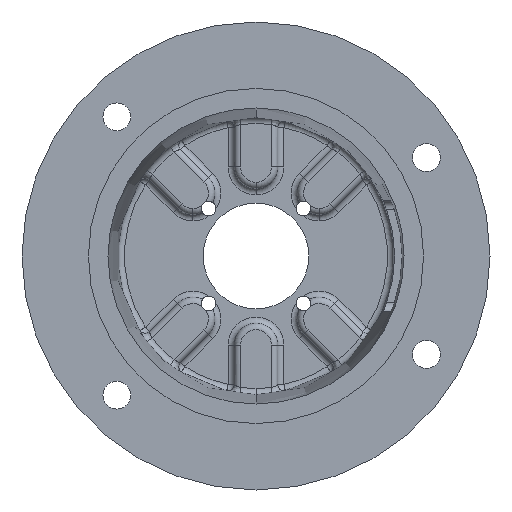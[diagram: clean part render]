
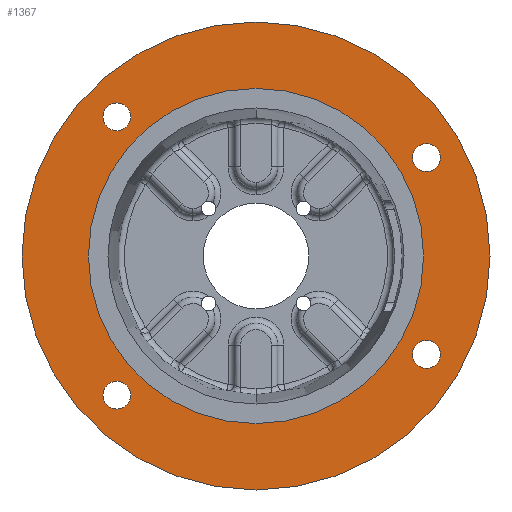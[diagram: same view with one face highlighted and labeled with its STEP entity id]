
A CAD part, front view. The second image highlights one B-rep face of the part: STEP entity #1367.
In plain terms, the highlighted planar face has unit normal (0, -1, 0).
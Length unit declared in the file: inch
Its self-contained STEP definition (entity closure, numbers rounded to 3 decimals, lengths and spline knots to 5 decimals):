
#10 = VERTEX_POINT ( 'NONE', #11463 ) ;
#105 = DIRECTION ( 'NONE',  ( 0., -1., 0. ) ) ;
#249 = CARTESIAN_POINT ( 'NONE',  ( 4.00537, 0., -2.3125 ) ) ;
#466 = CIRCLE ( 'NONE', #10518, 0.32812 ) ;
#550 = CARTESIAN_POINT ( 'NONE',  ( 4.00537, 0., -2.64063 ) ) ;
#581 = CARTESIAN_POINT ( 'NONE',  ( 4.00537, 0., -2.3125 ) ) ;
#617 = DIRECTION ( 'NONE',  ( 0., 0., -1. ) ) ;
#686 = CARTESIAN_POINT ( 'NONE',  ( -3.27037, 0., 3.27037 ) ) ;
#737 = DIRECTION ( 'NONE',  ( 0., -1., 0. ) ) ;
#801 = ORIENTED_EDGE ( 'NONE', *, *, #5956, .F. ) ;
#821 = FACE_BOUND ( 'NONE', #5572, .T. ) ;
#880 = DIRECTION ( 'NONE',  ( 0., 0., -1. ) ) ;
#986 = CIRCLE ( 'NONE', #13834, 0.32812 ) ;
#1192 = CARTESIAN_POINT ( 'NONE',  ( 0., 0., 3.9385 ) ) ;
#1319 = DIRECTION ( 'NONE',  ( 0., -1., 0. ) ) ;
#1344 = AXIS2_PLACEMENT_3D ( 'NONE', #9605, #3038, #10681 ) ;
#1367 = ADVANCED_FACE ( 'NONE', ( #6631, #3731, #821, #12426, #12077, #9223 ), #4851, .F. ) ;
#1369 = DIRECTION ( 'NONE',  ( 0., 0., -1. ) ) ;
#1380 = EDGE_CURVE ( 'NONE', #1920, #7416, #466, .T. ) ;
#1396 = DIRECTION ( 'NONE',  ( 0., -1., 0. ) ) ;
#1414 = ORIENTED_EDGE ( 'NONE', *, *, #10259, .F. ) ;
#1696 = DIRECTION ( 'NONE',  ( 0., 0., -1. ) ) ;
#1726 = EDGE_CURVE ( 'NONE', #8105, #10, #986, .T. ) ;
#1920 = VERTEX_POINT ( 'NONE', #13364 ) ;
#2067 = VERTEX_POINT ( 'NONE', #13844 ) ;
#2233 = AXIS2_PLACEMENT_3D ( 'NONE', #7871, #1319, #8975 ) ;
#2440 = AXIS2_PLACEMENT_3D ( 'NONE', #7956, #1396, #9068 ) ;
#2498 = CIRCLE ( 'NONE', #9348, 0.32812 ) ;
#2959 = AXIS2_PLACEMENT_3D ( 'NONE', #13644, #7208, #617 ) ;
#3008 = CIRCLE ( 'NONE', #13911, 0.32812 ) ;
#3038 = DIRECTION ( 'NONE',  ( 0., -1., 0. ) ) ;
#3378 = VERTEX_POINT ( 'NONE', #7032 ) ;
#3603 = CARTESIAN_POINT ( 'NONE',  ( 0., 0., 5.5 ) ) ;
#3731 = FACE_BOUND ( 'NONE', #9716, .T. ) ;
#3814 = DIRECTION ( 'NONE',  ( 0., 0., -1. ) ) ;
#3906 = DIRECTION ( 'NONE',  ( 0., -1., 0. ) ) ;
#4172 = CIRCLE ( 'NONE', #6032, 0.32812 ) ;
#4181 = CIRCLE ( 'NONE', #1344, 0.32812 ) ;
#4254 = CARTESIAN_POINT ( 'NONE',  ( -3.27037, 0., -3.27037 ) ) ;
#4286 = AXIS2_PLACEMENT_3D ( 'NONE', #581, #8265, #1696 ) ;
#4335 = CARTESIAN_POINT ( 'NONE',  ( -3.27037, 0., -3.27037 ) ) ;
#4442 = CARTESIAN_POINT ( 'NONE',  ( 4.00537, 0., 2.3125 ) ) ;
#4710 = DIRECTION ( 'NONE',  ( 0., 0., 1. ) ) ;
#4725 = EDGE_LOOP ( 'NONE', ( #12754, #11399 ) ) ;
#4769 = DIRECTION ( 'NONE',  ( 0., 1., 0. ) ) ;
#4851 = PLANE ( 'NONE',  #11260 ) ;
#4946 = EDGE_CURVE ( 'NONE', #2067, #10457, #5200, .T. ) ;
#4983 = CARTESIAN_POINT ( 'NONE',  ( -5.5, 0., 0. ) ) ;
#5200 = CIRCLE ( 'NONE', #2959, 0.32812 ) ;
#5214 = CIRCLE ( 'NONE', #7090, 3.9385 ) ;
#5255 = CIRCLE ( 'NONE', #4286, 0.32812 ) ;
#5431 = DIRECTION ( 'NONE',  ( 0., 0., -1. ) ) ;
#5534 = DIRECTION ( 'NONE',  ( 0., 0., -1. ) ) ;
#5572 = EDGE_LOOP ( 'NONE', ( #10319, #11629 ) ) ;
#5652 = CARTESIAN_POINT ( 'NONE',  ( 0., 0., 0. ) ) ;
#5896 = EDGE_LOOP ( 'NONE', ( #801, #9109 ) ) ;
#5926 = EDGE_LOOP ( 'NONE', ( #9608, #8827 ) ) ;
#5956 = EDGE_CURVE ( 'NONE', #10, #8105, #4181, .T. ) ;
#6032 = AXIS2_PLACEMENT_3D ( 'NONE', #249, #7927, #1369 ) ;
#6565 = EDGE_CURVE ( 'NONE', #6638, #3378, #10968, .T. ) ;
#6631 = FACE_BOUND ( 'NONE', #4725, .T. ) ;
#6638 = VERTEX_POINT ( 'NONE', #3603 ) ;
#6668 = CARTESIAN_POINT ( 'NONE',  ( 0., 0., 0. ) ) ;
#6771 = DIRECTION ( 'NONE',  ( 0., 0., -1. ) ) ;
#7032 = CARTESIAN_POINT ( 'NONE',  ( 0., 0., -5.5 ) ) ;
#7090 = AXIS2_PLACEMENT_3D ( 'NONE', #5652, #13244, #6771 ) ;
#7146 = EDGE_CURVE ( 'NONE', #3378, #6638, #10562, .T. ) ;
#7208 = DIRECTION ( 'NONE',  ( 0., -1., 0. ) ) ;
#7262 = VERTEX_POINT ( 'NONE', #11465 ) ;
#7416 = VERTEX_POINT ( 'NONE', #11734 ) ;
#7774 = DIRECTION ( 'NONE',  ( 0., 0., -1. ) ) ;
#7871 = CARTESIAN_POINT ( 'NONE',  ( 0., 0., 0. ) ) ;
#7927 = DIRECTION ( 'NONE',  ( 0., -1., 0. ) ) ;
#7956 = CARTESIAN_POINT ( 'NONE',  ( 0., 0., 0. ) ) ;
#8105 = VERTEX_POINT ( 'NONE', #13345 ) ;
#8265 = DIRECTION ( 'NONE',  ( 0., -1., 0. ) ) ;
#8295 = EDGE_CURVE ( 'NONE', #11480, #9294, #5255, .T. ) ;
#8503 = CARTESIAN_POINT ( 'NONE',  ( 4.00537, 0., 2.64062 ) ) ;
#8640 = ORIENTED_EDGE ( 'NONE', *, *, #6565, .T. ) ;
#8827 = ORIENTED_EDGE ( 'NONE', *, *, #9594, .F. ) ;
#8974 = EDGE_CURVE ( 'NONE', #10457, #2067, #3008, .T. ) ;
#8975 = DIRECTION ( 'NONE',  ( 0., 0., -1. ) ) ;
#9068 = DIRECTION ( 'NONE',  ( 0., 0., -1. ) ) ;
#9109 = ORIENTED_EDGE ( 'NONE', *, *, #1726, .F. ) ;
#9223 = FACE_OUTER_BOUND ( 'NONE', #13045, .T. ) ;
#9294 = VERTEX_POINT ( 'NONE', #550 ) ;
#9348 = AXIS2_PLACEMENT_3D ( 'NONE', #4335, #11942, #5431 ) ;
#9489 = EDGE_CURVE ( 'NONE', #7416, #1920, #2498, .T. ) ;
#9594 = EDGE_CURVE ( 'NONE', #12329, #7262, #13377, .T. ) ;
#9605 = CARTESIAN_POINT ( 'NONE',  ( -3.27037, 0., 3.27037 ) ) ;
#9608 = ORIENTED_EDGE ( 'NONE', *, *, #12756, .F. ) ;
#9716 = EDGE_LOOP ( 'NONE', ( #1414, #13701 ) ) ;
#10259 = EDGE_CURVE ( 'NONE', #9294, #11480, #4172, .T. ) ;
#10319 = ORIENTED_EDGE ( 'NONE', *, *, #1380, .F. ) ;
#10457 = VERTEX_POINT ( 'NONE', #8503 ) ;
#10518 = AXIS2_PLACEMENT_3D ( 'NONE', #4254, #3906, #3814 ) ;
#10562 = CIRCLE ( 'NONE', #2440, 5.5 ) ;
#10681 = DIRECTION ( 'NONE',  ( 0., 0., -1. ) ) ;
#10968 = CIRCLE ( 'NONE', #2233, 5.5 ) ;
#11260 = AXIS2_PLACEMENT_3D ( 'NONE', #4983, #4769, #4710 ) ;
#11399 = ORIENTED_EDGE ( 'NONE', *, *, #8974, .F. ) ;
#11463 = CARTESIAN_POINT ( 'NONE',  ( -3.27037, 0., 2.94224 ) ) ;
#11465 = CARTESIAN_POINT ( 'NONE',  ( 0., 0., -3.9385 ) ) ;
#11480 = VERTEX_POINT ( 'NONE', #11499 ) ;
#11499 = CARTESIAN_POINT ( 'NONE',  ( 4.00537, 0., -1.98438 ) ) ;
#11629 = ORIENTED_EDGE ( 'NONE', *, *, #9489, .F. ) ;
#11734 = CARTESIAN_POINT ( 'NONE',  ( -3.27037, 0., -2.94224 ) ) ;
#11869 = ORIENTED_EDGE ( 'NONE', *, *, #7146, .T. ) ;
#11942 = DIRECTION ( 'NONE',  ( 0., -1., 0. ) ) ;
#12069 = DIRECTION ( 'NONE',  ( 0., -1., 0. ) ) ;
#12077 = FACE_BOUND ( 'NONE', #5926, .T. ) ;
#12224 = AXIS2_PLACEMENT_3D ( 'NONE', #6668, #105, #7774 ) ;
#12329 = VERTEX_POINT ( 'NONE', #1192 ) ;
#12426 = FACE_BOUND ( 'NONE', #5896, .T. ) ;
#12754 = ORIENTED_EDGE ( 'NONE', *, *, #4946, .F. ) ;
#12756 = EDGE_CURVE ( 'NONE', #7262, #12329, #5214, .T. ) ;
#13045 = EDGE_LOOP ( 'NONE', ( #11869, #8640 ) ) ;
#13244 = DIRECTION ( 'NONE',  ( 0., -1., 0. ) ) ;
#13345 = CARTESIAN_POINT ( 'NONE',  ( -3.27037, 0., 3.59849 ) ) ;
#13364 = CARTESIAN_POINT ( 'NONE',  ( -3.27037, 0., -3.59849 ) ) ;
#13377 = CIRCLE ( 'NONE', #12224, 3.9385 ) ;
#13644 = CARTESIAN_POINT ( 'NONE',  ( 4.00537, 0., 2.3125 ) ) ;
#13701 = ORIENTED_EDGE ( 'NONE', *, *, #8295, .F. ) ;
#13834 = AXIS2_PLACEMENT_3D ( 'NONE', #686, #737, #880 ) ;
#13844 = CARTESIAN_POINT ( 'NONE',  ( 4.00537, 0., 1.98437 ) ) ;
#13911 = AXIS2_PLACEMENT_3D ( 'NONE', #4442, #12069, #5534 ) ;
